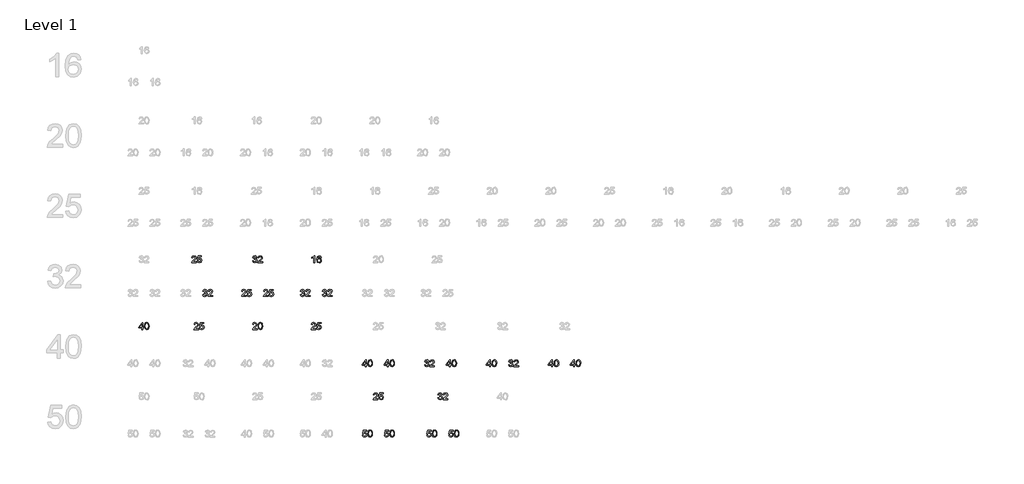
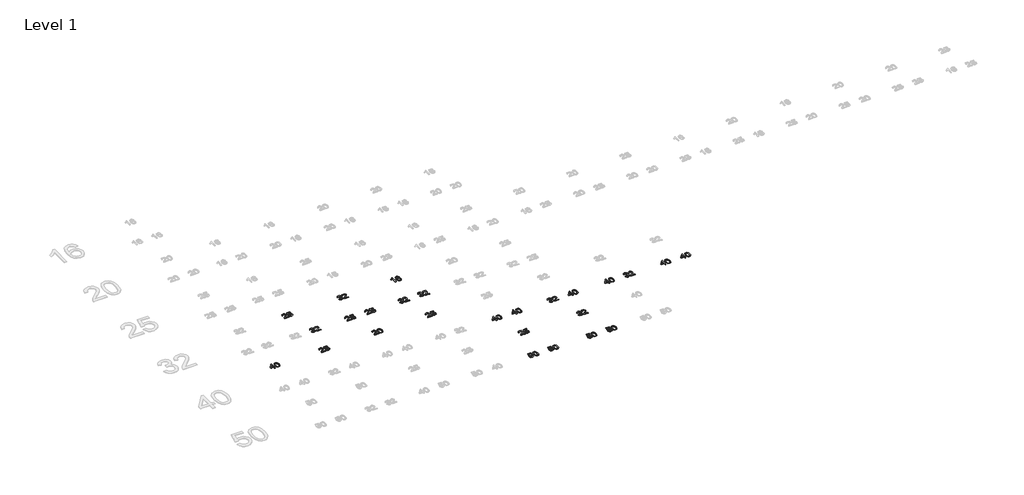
# One storey, part 29 of 58: 26 proxies.
"""IFC4 building model written with IfcOpenShell, lengths in millimetres."""

from ifc_helpers import new_model, si_unit, frame, origin, place, context, project, spatial, polyline, outline, extrude, element, save

model = new_model("IFC4")

# Units and contexts
model_context = context("Model", 3, world=origin())
ifc_project = project(units=[si_unit("LENGTHUNIT", "METRE", prefix="MILLI")], contexts=[model_context])

# Site, building, storey
site = spatial("IfcSite", under=ifc_project)
building = spatial("IfcBuilding", under=site)
storey = spatial("IfcBuildingStorey", under=building, Name="Level 1", Elevation=27.3876384)

# Proxies
placement = place(None, origin())
element("IfcBuildingElementProxy", 1, Name="30mm Arial", ObjectType="30mm Arial", at=placement, inside=storey, context=model_context, shape_type="SweptSolid", body=[
    extrude(outline(polyline([(13366.1902929, 29211.0993177), (13369.9574045, 29211.5702066), (13372.0359378, 29207.6044387), (13375.9244505, 29206.3904281), (13380.5009025, 29208.0606124), (13382.2005173, 29212.195606), (13380.5156178, 29216.0914763), (13376.2334713, 29217.6329019), (13373.5920786, 29217.2208741), (13374.0114641, 29220.9879857), (13378.8895793, 29222.0254129), (13380.7878504, 29225.3510661), (13379.4119718, 29228.2978009), (13375.8655893, 29229.4639869), (13372.2750611, 29228.2867645), (13370.4282934, 29224.7550973), (13366.6611818, 29225.2259863), (13369.7440329, 29231.1341711), (13375.7331518, 29233.2310985), (13380.2764945, 29232.1973501), (13383.4549949, 29229.3720164), (13384.5549621, 29225.5717953), (13383.5101772, 29222.0989893), (13380.4199684, 29219.6047494), (13384.5255315, 29217.0295754), (13385.9676289, 29212.1293872), (13383.0834341, 29205.3897891), (13375.7920129, 29202.6233165), (13369.1848523, 29204.9851189), (13366.1902929, 29211.0993177)])), frame((0.0, 0.0, 27.3876384), z_axis=(0.0, 0.0, 1.0), x_axis=(1.0, 0.0, 0.0)), (0.0, 0.0, 1.0), 2.0),
    extrude(outline(polyline([(13408.5702987, 29206.8613171), (13408.5702987, 29203.0942054), (13388.7929626, 29203.0942054), (13389.1976328, 29205.6914523), (13391.4858589, 29209.6903296), (13396.202106, 29214.0570889), (13402.7062597, 29220.3331557), (13404.3322981, 29224.6005869), (13402.7982302, 29228.0549988), (13398.7919953, 29229.4639869), (13394.6165346, 29228.0881082), (13393.0309632, 29224.2842084), (13389.2638516, 29224.7550973), (13392.1517253, 29231.0605947), (13398.8729293, 29233.2310985), (13405.6162063, 29230.8177926), (13408.0994098, 29224.8286737), (13407.4298645, 29221.2565395), (13405.2041785, 29217.5630043), (13399.8073496, 29212.4016199), (13395.4736997, 29208.7779823), (13393.7740849, 29206.8613171), (13408.5702987, 29206.8613171)])), frame((0.0, 0.0, 27.3876384), z_axis=(0.0, 0.0, 1.0), x_axis=(1.0, 0.0, 0.0)), (0.0, 0.0, 1.0), 2.0),
])
element("IfcBuildingElementProxy", 2, Name="30mm Arial", ObjectType="30mm Arial", at=placement, inside=storey, context=model_context, shape_type="SweptSolid", body=[
    extrude(outline(polyline([(13338.6749248, 29350.6799576), (13338.6749248, 29346.912846), (13318.8975887, 29346.912846), (13319.3022589, 29349.5100929), (13321.5904849, 29353.5089702), (13326.3067321, 29357.8757295), (13332.8108858, 29364.1517963), (13334.4369242, 29368.4192274), (13332.9028563, 29371.8736394), (13328.8966213, 29373.2826274), (13324.7211607, 29371.9067488), (13323.1355893, 29368.1028489), (13319.3684777, 29368.5737379), (13322.2563513, 29374.8792353), (13328.9775554, 29377.049739), (13335.7208324, 29374.6364332), (13338.2040358, 29368.6473143), (13337.5344906, 29365.0751801), (13335.3088045, 29361.3816449), (13329.9119756, 29356.2202605), (13325.5783257, 29352.5966228), (13323.8787109, 29350.6799576), (13338.6749248, 29350.6799576)])), frame((0.0, 0.0, 27.3876384), z_axis=(0.0, 0.0, 1.0), x_axis=(1.0, 0.0, 0.0)), (0.0, 0.0, 1.0), 2.0),
    extrude(outline(polyline([(13342.4420364, 29354.9179582), (13346.209148, 29355.3888472), (13348.1074191, 29351.5076921), (13352.0437565, 29350.2090687), (13356.7673613, 29352.0153693), (13358.4522608, 29356.8088717), (13356.8740471, 29361.2823167), (13352.1026176, 29362.9230704), (13348.7953585, 29362.2682405), (13346.680037, 29360.5686257), (13342.9129254, 29361.0395146), (13346.209148, 29376.5788501), (13360.8067056, 29376.5788501), (13360.8067056, 29372.8117385), (13349.255211, 29372.8117385), (13347.6438878, 29364.5123207), (13353.1547601, 29366.6901821), (13359.5963738, 29363.9899282), (13362.2193725, 29357.0443161), (13359.8575701, 29350.0545582), (13352.0290412, 29346.441957), (13345.3814135, 29348.7632924), (13342.4420364, 29354.9179582)])), frame((0.0, 0.0, 27.3876384), z_axis=(0.0, 0.0, 1.0), x_axis=(1.0, 0.0, 0.0)), (0.0, 0.0, 1.0), 2.0),
])
element("IfcBuildingElementProxy", 3, Name="30mm Arial", ObjectType="30mm Arial", at=placement, inside=storey, context=model_context, shape_type="SweptSolid", body=[
    extrude(outline(polyline([(13551.4666407, 29206.8613171), (13551.4666407, 29203.0942054), (13531.6893046, 29203.0942054), (13532.0939748, 29205.6914523), (13534.3822008, 29209.6903296), (13539.098448, 29214.0570889), (13545.6026017, 29220.3331557), (13547.2286401, 29224.6005869), (13545.6945722, 29228.0549988), (13541.6883372, 29229.4639869), (13537.5128766, 29228.0881082), (13535.9273052, 29224.2842084), (13532.1601936, 29224.7550973), (13535.0480672, 29231.0605947), (13541.7692713, 29233.2310985), (13548.5125482, 29230.8177926), (13550.9957517, 29224.8286737), (13550.3262065, 29221.2565395), (13548.1005204, 29217.5630043), (13542.7036915, 29212.4016199), (13538.3700416, 29208.7779823), (13536.6704268, 29206.8613171), (13551.4666407, 29206.8613171)])), frame((0.0, 0.0, 27.3876384), z_axis=(0.0, 0.0, 1.0), x_axis=(1.0, 0.0, 0.0)), (0.0, 0.0, 1.0), 2.0),
    extrude(outline(polyline([(13555.2337523, 29211.0993177), (13559.0008639, 29211.5702066), (13560.899135, 29207.6890516), (13564.8354724, 29206.3904281), (13569.5590772, 29208.1967287), (13571.2439767, 29212.9902311), (13569.665763, 29217.4636762), (13564.8943335, 29219.1044299), (13561.5870743, 29218.4495999), (13559.4717529, 29216.7499851), (13555.7046412, 29217.2208741), (13559.0008639, 29232.7602095), (13573.5984215, 29232.7602095), (13573.5984215, 29228.9930979), (13562.0469268, 29228.9930979), (13560.4356037, 29220.6936801), (13565.946476, 29222.8715415), (13572.3880897, 29220.1712877), (13575.0110884, 29213.2256756), (13572.6492859, 29206.2359177), (13564.8207571, 29202.6233165), (13558.1731294, 29204.9446519), (13555.2337523, 29211.0993177)])), frame((0.0, 0.0, 27.3876384), z_axis=(0.0, 0.0, 1.0), x_axis=(1.0, 0.0, 0.0)), (0.0, 0.0, 1.0), 2.0),
])
element("IfcBuildingElementProxy", 4, Name="30mm Arial", ObjectType="30mm Arial", at=placement, inside=storey, context=model_context, shape_type="SweptSolid", body=[
    extrude(outline(polyline([(13645.2166407, 29206.8613171), (13645.2166407, 29203.0942054), (13625.4393046, 29203.0942054), (13625.8439748, 29205.6914523), (13628.1322008, 29209.6903296), (13632.848448, 29214.0570889), (13639.3526017, 29220.3331557), (13640.9786401, 29224.6005869), (13639.4445722, 29228.0549988), (13635.4383372, 29229.4639869), (13631.2628766, 29228.0881082), (13629.6773052, 29224.2842084), (13625.9101936, 29224.7550973), (13628.7980672, 29231.0605947), (13635.5192713, 29233.2310985), (13642.2625482, 29230.8177926), (13644.7457517, 29224.8286737), (13644.0762065, 29221.2565395), (13641.8505204, 29217.5630043), (13636.4536915, 29212.4016199), (13632.1200416, 29208.7779823), (13630.4204268, 29206.8613171), (13645.2166407, 29206.8613171)])), frame((0.0, 0.0, 27.3876384), z_axis=(0.0, 0.0, 1.0), x_axis=(1.0, 0.0, 0.0)), (0.0, 0.0, 1.0), 2.0),
    extrude(outline(polyline([(13648.9837523, 29211.0993177), (13652.7508639, 29211.5702066), (13654.649135, 29207.6890516), (13658.5854724, 29206.3904281), (13663.3090772, 29208.1967287), (13664.9939767, 29212.9902311), (13663.415763, 29217.4636762), (13658.6443335, 29219.1044299), (13655.3370743, 29218.4495999), (13653.2217529, 29216.7499851), (13649.4546412, 29217.2208741), (13652.7508639, 29232.7602095), (13667.3484215, 29232.7602095), (13667.3484215, 29228.9930979), (13655.7969268, 29228.9930979), (13654.1856037, 29220.6936801), (13659.696476, 29222.8715415), (13666.1380897, 29220.1712877), (13668.7610884, 29213.2256756), (13666.3992859, 29206.2359177), (13658.5707571, 29202.6233165), (13651.9231294, 29204.9446519), (13648.9837523, 29211.0993177)])), frame((0.0, 0.0, 27.3876384), z_axis=(0.0, 0.0, 1.0), x_axis=(1.0, 0.0, 0.0)), (0.0, 0.0, 1.0), 2.0),
])
element("IfcBuildingElementProxy", 5, Name="30mm Arial", ObjectType="30mm Arial", at=placement, inside=storey, context=model_context, shape_type="SweptSolid", body=[
    extrude(outline(polyline([(13579.0883784, 29354.9179582), (13582.85549, 29355.3888472), (13584.9340233, 29351.4230793), (13588.8225359, 29350.2090687), (13593.398988, 29351.8792529), (13595.0986028, 29356.0142466), (13593.4137032, 29359.9101169), (13589.1315568, 29361.4515425), (13586.4901641, 29361.0395146), (13586.9095496, 29364.8066262), (13591.7876648, 29365.8440535), (13593.6859359, 29369.1697067), (13592.3100573, 29372.1164415), (13588.7636748, 29373.2826274), (13585.1731466, 29372.105405), (13583.3263789, 29368.5737379), (13579.5592673, 29369.0446268), (13582.6421184, 29374.9528117), (13588.6312373, 29377.049739), (13593.17458, 29376.0159906), (13596.3530804, 29373.1906569), (13597.4530476, 29369.3904359), (13596.4082627, 29365.9176299), (13593.3180539, 29363.4233899), (13597.423617, 29360.848216), (13598.8657144, 29355.9480278), (13595.9815196, 29349.2084297), (13588.6900984, 29346.441957), (13582.0829378, 29348.8037595), (13579.0883784, 29354.9179582)])), frame((0.0, 0.0, 27.3876384), z_axis=(0.0, 0.0, 1.0), x_axis=(1.0, 0.0, 0.0)), (0.0, 0.0, 1.0), 2.0),
    extrude(outline(polyline([(13621.4683842, 29350.6799576), (13621.4683842, 29346.912846), (13601.6910481, 29346.912846), (13602.0957183, 29349.5100929), (13604.3839443, 29353.5089702), (13609.1001915, 29357.8757295), (13615.6043452, 29364.1517963), (13617.2303836, 29368.4192274), (13615.6963157, 29371.8736394), (13611.6900808, 29373.2826274), (13607.5146201, 29371.9067488), (13605.9290487, 29368.1028489), (13602.1619371, 29368.5737379), (13605.0498108, 29374.8792353), (13611.7710148, 29377.049739), (13618.5142918, 29374.6364332), (13620.9974952, 29368.6473143), (13620.32795, 29365.0751801), (13618.1022639, 29361.3816449), (13612.7054351, 29356.2202605), (13608.3717852, 29352.5966228), (13606.6721704, 29350.6799576), (13621.4683842, 29350.6799576)])), frame((0.0, 0.0, 27.3876384), z_axis=(0.0, 0.0, 1.0), x_axis=(1.0, 0.0, 0.0)), (0.0, 0.0, 1.0), 2.0),
])
element("IfcBuildingElementProxy", 6, Name="30mm Arial", ObjectType="30mm Arial", at=placement, inside=storey, context=model_context, shape_type="SweptSolid", body=[
    extrude(outline(polyline([(13782.7203922, 29211.0993177), (13786.4875038, 29211.5702066), (13788.5660371, 29207.6044387), (13792.4545498, 29206.3904281), (13797.0310018, 29208.0606124), (13798.7306166, 29212.195606), (13797.0457171, 29216.0914763), (13792.7635706, 29217.6329019), (13790.1221779, 29217.2208741), (13790.5415634, 29220.9879857), (13795.4196786, 29222.0254129), (13797.3179497, 29225.3510661), (13795.9420711, 29228.2978009), (13792.3956886, 29229.4639869), (13788.8051604, 29228.2867645), (13786.9583928, 29224.7550973), (13783.1912811, 29225.2259863), (13786.2741322, 29231.1341711), (13792.2632511, 29233.2310985), (13796.8065938, 29232.1973501), (13799.9850942, 29229.3720164), (13801.0850614, 29225.5717953), (13800.0402765, 29222.0989893), (13796.9500677, 29219.6047494), (13801.0556308, 29217.0295754), (13802.4977282, 29212.1293872), (13799.6135334, 29205.3897891), (13792.3221122, 29202.6233165), (13785.7149516, 29204.9851189), (13782.7203922, 29211.0993177)])), frame((0.0, 0.0, 27.3876384), z_axis=(0.0, 0.0, 1.0), x_axis=(1.0, 0.0, 0.0)), (0.0, 0.0, 1.0), 2.0),
    extrude(outline(polyline([(13825.100398, 29206.8613171), (13825.100398, 29203.0942054), (13805.323062, 29203.0942054), (13805.7277322, 29205.6914523), (13808.0159582, 29209.6903296), (13812.7322053, 29214.0570889), (13819.236359, 29220.3331557), (13820.8623974, 29224.6005869), (13819.3283295, 29228.0549988), (13815.3220946, 29229.4639869), (13811.1466339, 29228.0881082), (13809.5610625, 29224.2842084), (13805.7939509, 29224.7550973), (13808.6818246, 29231.0605947), (13815.4030286, 29233.2310985), (13822.1463056, 29230.8177926), (13824.6295091, 29224.8286737), (13823.9599638, 29221.2565395), (13821.7342778, 29217.5630043), (13816.3374489, 29212.4016199), (13812.003799, 29208.7779823), (13810.3041842, 29206.8613171), (13825.100398, 29206.8613171)])), frame((0.0, 0.0, 27.3876384), z_axis=(0.0, 0.0, 1.0), x_axis=(1.0, 0.0, 0.0)), (0.0, 0.0, 1.0), 2.0),
])
element("IfcBuildingElementProxy", 7, Name="30mm Arial", ObjectType="30mm Arial", at=placement, inside=storey, context=model_context, shape_type="SweptSolid", body=[
    extrude(outline(polyline([(13876.4703922, 29211.0993177), (13880.2375038, 29211.5702066), (13882.3160371, 29207.6044387), (13886.2045498, 29206.3904281), (13890.7810018, 29208.0606124), (13892.4806166, 29212.195606), (13890.7957171, 29216.0914763), (13886.5135706, 29217.6329019), (13883.8721779, 29217.2208741), (13884.2915634, 29220.9879857), (13889.1696786, 29222.0254129), (13891.0679497, 29225.3510661), (13889.6920711, 29228.2978009), (13886.1456886, 29229.4639869), (13882.5551604, 29228.2867645), (13880.7083928, 29224.7550973), (13876.9412811, 29225.2259863), (13880.0241322, 29231.1341711), (13886.0132511, 29233.2310985), (13890.5565938, 29232.1973501), (13893.7350942, 29229.3720164), (13894.8350614, 29225.5717953), (13893.7902765, 29222.0989893), (13890.7000677, 29219.6047494), (13894.8056308, 29217.0295754), (13896.2477282, 29212.1293872), (13893.3635334, 29205.3897891), (13886.0721122, 29202.6233165), (13879.4649516, 29204.9851189), (13876.4703922, 29211.0993177)])), frame((0.0, 0.0, 27.3876384), z_axis=(0.0, 0.0, 1.0), x_axis=(1.0, 0.0, 0.0)), (0.0, 0.0, 1.0), 2.0),
    extrude(outline(polyline([(13918.850398, 29206.8613171), (13918.850398, 29203.0942054), (13899.073062, 29203.0942054), (13899.4777322, 29205.6914523), (13901.7659582, 29209.6903296), (13906.4822053, 29214.0570889), (13912.986359, 29220.3331557), (13914.6123974, 29224.6005869), (13913.0783295, 29228.0549988), (13909.0720946, 29229.4639869), (13904.8966339, 29228.0881082), (13903.3110625, 29224.2842084), (13899.5439509, 29224.7550973), (13902.4318246, 29231.0605947), (13909.1530286, 29233.2310985), (13915.8963056, 29230.8177926), (13918.3795091, 29224.8286737), (13917.7099638, 29221.2565395), (13915.4842778, 29217.5630043), (13910.0874489, 29212.4016199), (13905.753799, 29208.7779823), (13904.0541842, 29206.8613171), (13918.850398, 29206.8613171)])), frame((0.0, 0.0, 27.3876384), z_axis=(0.0, 0.0, 1.0), x_axis=(1.0, 0.0, 0.0)), (0.0, 0.0, 1.0), 2.0),
])
element("IfcBuildingElementProxy", 8, Name="30mm Arial", ObjectType="30mm Arial", at=placement, inside=storey, context=model_context, shape_type="SweptSolid", body=[
    extrude(outline(polyline([(13843.7752456, 29346.912846), (13840.008134, 29346.912846), (13840.008134, 29370.3984326), (13836.4396786, 29367.856368), (13832.4739107, 29365.9544181), (13832.4739107, 29369.5155158), (13837.9958194, 29373.0398253), (13841.3472244, 29377.049739), (13843.7752456, 29377.049739), (13843.7752456, 29346.912846)])), frame((0.0, 0.0, 27.3876384), z_axis=(0.0, 0.0, 1.0), x_axis=(1.0, 0.0, 0.0)), (0.0, 0.0, 1.0), 2.0),
    extrude(outline(polyline([(13872.0285828, 29369.0446268), (13868.2614712, 29368.5737379), (13866.8340891, 29371.7154501), (13863.0596198, 29373.2826274), (13859.6603901, 29372.3702801), (13857.088895, 29368.9452987), (13856.0183584, 29362.2314523), (13859.3403328, 29365.2370482), (13863.4569323, 29366.2192931), (13869.8580791, 29363.5337545), (13872.4994718, 29356.5955001), (13871.2560306, 29351.3973275), (13867.8347281, 29347.7185076), (13862.8977517, 29346.441957), (13855.2200545, 29349.8264714), (13852.2512468, 29360.9806535), (13855.5474694, 29373.6137212), (13863.2950643, 29377.049739), (13869.2473949, 29374.9233811), (13872.0285828, 29369.0446268)]), holes=[polyline([(13856.0183584, 29356.6543612), (13856.8902387, 29353.3912479), (13859.2078953, 29351.0220879), (13862.6034461, 29350.2090687), (13867.0437818, 29351.8939682), (13868.7323601, 29356.4704202), (13867.0658547, 29360.8518948), (13862.4489357, 29362.4521815), (13857.8908777, 29360.8518948), (13856.0183584, 29356.6543612)])]), frame((0.0, 0.0, 27.3876384), z_axis=(0.0, 0.0, 1.0), x_axis=(1.0, 0.0, 0.0)), (0.0, 0.0, 1.0), 2.0),
])
element("IfcBuildingElementProxy", 9, Name="30mm Arial", ObjectType="30mm Arial", at=placement, inside=storey, context=model_context, shape_type="SweptSolid", body=[
    extrude(outline(polyline([(13106.6115905, 29061.912846), (13106.6115905, 29068.9761803), (13092.9558108, 29068.9761803), (13092.9558108, 29072.7432919), (13107.5533684, 29091.5788501), (13110.3787021, 29091.5788501), (13110.3787021, 29072.7432919), (13114.1458137, 29072.7432919), (13114.1458137, 29068.9761803), (13110.3787021, 29068.9761803), (13110.3787021, 29061.912846), (13106.6115905, 29061.912846)]), holes=[polyline([(13106.6115905, 29072.7432919), (13106.6115905, 29084.3830783), (13097.5911239, 29072.7432919), (13106.6115905, 29072.7432919)])]), frame((0.0, 0.0, 27.3876384), z_axis=(0.0, 0.0, 1.0), x_axis=(1.0, 0.0, 0.0)), (0.0, 0.0, 1.0), 2.0),
    extrude(outline(polyline([(13117.4420364, 29076.7384904), (13118.5493612, 29085.409469), (13121.8382262, 29090.4089853), (13127.3307044, 29092.049739), (13131.7305731, 29091.0785306), (13134.7692784, 29088.2789486), (13136.535112, 29083.8202188), (13137.2193725, 29076.7384904), (13136.1230841, 29068.1043), (13132.8452555, 29063.0937472), (13127.3307044, 29061.441957), (13120.4439535, 29064.3114366), (13117.4420364, 29076.7384904)]), holes=[polyline([(13121.209148, 29076.745848), (13122.9749816, 29067.3906089), (13127.3307044, 29065.2090687), (13131.6864273, 29067.3979666), (13133.4522608, 29076.745848), (13131.7452884, 29085.9944014), (13127.2865586, 29088.2826274), (13123.0338427, 29086.2666341), (13121.209148, 29076.745848)])]), frame((0.0, 0.0, 27.3876384), z_axis=(0.0, 0.0, 1.0), x_axis=(1.0, 0.0, 0.0)), (0.0, 0.0, 1.0), 2.0),
])
element("IfcBuildingElementProxy", 10, Name="30mm Arial", ObjectType="30mm Arial", at=placement, inside=storey, context=model_context, shape_type="SweptSolid", body=[
    extrude(outline(polyline([(13348.6749248, 29065.6799576), (13348.6749248, 29061.912846), (13328.8975887, 29061.912846), (13329.3022589, 29064.5100929), (13331.5904849, 29068.5089702), (13336.3067321, 29072.8757295), (13342.8108858, 29079.1517963), (13344.4369242, 29083.4192274), (13342.9028563, 29086.8736394), (13338.8966213, 29088.2826274), (13334.7211607, 29086.9067488), (13333.1355893, 29083.1028489), (13329.3684777, 29083.5737379), (13332.2563513, 29089.8792353), (13338.9775554, 29092.049739), (13345.7208324, 29089.6364332), (13348.2040358, 29083.6473143), (13347.5344906, 29080.0751801), (13345.3088045, 29076.3816449), (13339.9119756, 29071.2202605), (13335.5783257, 29067.5966228), (13333.8787109, 29065.6799576), (13348.6749248, 29065.6799576)])), frame((0.0, 0.0, 27.3876384), z_axis=(0.0, 0.0, 1.0), x_axis=(1.0, 0.0, 0.0)), (0.0, 0.0, 1.0), 2.0),
    extrude(outline(polyline([(13352.4420364, 29069.9179582), (13356.209148, 29070.3888472), (13358.1074191, 29066.5076921), (13362.0437565, 29065.2090687), (13366.7673613, 29067.0153693), (13368.4522608, 29071.8088717), (13366.8740471, 29076.2823167), (13362.1026176, 29077.9230704), (13358.7953585, 29077.2682405), (13356.680037, 29075.5686257), (13352.9129254, 29076.0395146), (13356.209148, 29091.5788501), (13370.8067056, 29091.5788501), (13370.8067056, 29087.8117385), (13359.255211, 29087.8117385), (13357.6438878, 29079.5123207), (13363.1547601, 29081.6901821), (13369.5963738, 29078.9899282), (13372.2193725, 29072.0443161), (13369.8575701, 29065.0545582), (13362.0290412, 29061.441957), (13355.3814135, 29063.7632924), (13352.4420364, 29069.9179582)])), frame((0.0, 0.0, 27.3876384), z_axis=(0.0, 0.0, 1.0), x_axis=(1.0, 0.0, 0.0)), (0.0, 0.0, 1.0), 2.0),
])
element("IfcBuildingElementProxy", 11, Name="30mm Arial", ObjectType="30mm Arial", at=placement, inside=storey, context=model_context, shape_type="SweptSolid", body=[
    extrude(outline(polyline([(13598.3948255, 29065.6799576), (13598.3948255, 29061.912846), (13578.6174894, 29061.912846), (13579.0221596, 29064.5100929), (13581.3103856, 29068.5089702), (13586.0266328, 29072.8757295), (13592.5307865, 29079.1517963), (13594.1568249, 29083.4192274), (13592.622757, 29086.8736394), (13588.616522, 29088.2826274), (13584.4410614, 29086.9067488), (13582.85549, 29083.1028489), (13579.0883784, 29083.5737379), (13581.976252, 29089.8792353), (13588.6974561, 29092.049739), (13595.440733, 29089.6364332), (13597.9239365, 29083.6473143), (13597.2543913, 29080.0751801), (13595.0287052, 29076.3816449), (13589.6318763, 29071.2202605), (13585.2982264, 29067.5966228), (13583.5986116, 29065.6799576), (13598.3948255, 29065.6799576)])), frame((0.0, 0.0, 27.3876384), z_axis=(0.0, 0.0, 1.0), x_axis=(1.0, 0.0, 0.0)), (0.0, 0.0, 1.0), 2.0),
    extrude(outline(polyline([(13602.1619371, 29076.7384904), (13603.2692619, 29085.409469), (13606.5581269, 29090.4089853), (13612.0506051, 29092.049739), (13616.4504738, 29091.0785306), (13619.4891791, 29088.2789486), (13621.2550126, 29083.8202188), (13621.9392732, 29076.7384904), (13620.8429848, 29068.1043), (13617.5651562, 29063.0937472), (13612.0506051, 29061.441957), (13605.1638542, 29064.3114366), (13602.1619371, 29076.7384904)]), holes=[polyline([(13605.9290487, 29076.745848), (13607.6948823, 29067.3906089), (13612.0506051, 29065.2090687), (13616.4063279, 29067.3979666), (13618.1721615, 29076.745848), (13616.4651891, 29085.9944014), (13612.0064593, 29088.2826274), (13607.7537434, 29086.2666341), (13605.9290487, 29076.745848)])]), frame((0.0, 0.0, 27.3876384), z_axis=(0.0, 0.0, 1.0), x_axis=(1.0, 0.0, 0.0)), (0.0, 0.0, 1.0), 2.0),
])
element("IfcBuildingElementProxy", 12, Name="30mm Arial", ObjectType="30mm Arial", at=placement, inside=storey, context=model_context, shape_type="SweptSolid", body=[
    extrude(outline(polyline([(13848.9550241, 29065.6799576), (13848.9550241, 29061.912846), (13829.177688, 29061.912846), (13829.5823582, 29064.5100929), (13831.8705842, 29068.5089702), (13836.5868314, 29072.8757295), (13843.0909851, 29079.1517963), (13844.7170235, 29083.4192274), (13843.1829556, 29086.8736394), (13839.1767207, 29088.2826274), (13835.00126, 29086.9067488), (13833.4156886, 29083.1028489), (13829.648577, 29083.5737379), (13832.5364506, 29089.8792353), (13839.2576547, 29092.049739), (13846.0009317, 29089.6364332), (13848.4841351, 29083.6473143), (13847.8145899, 29080.0751801), (13845.5889038, 29076.3816449), (13840.192075, 29071.2202605), (13835.8584251, 29067.5966228), (13834.1588102, 29065.6799576), (13848.9550241, 29065.6799576)])), frame((0.0, 0.0, 27.3876384), z_axis=(0.0, 0.0, 1.0), x_axis=(1.0, 0.0, 0.0)), (0.0, 0.0, 1.0), 2.0),
    extrude(outline(polyline([(13852.7221357, 29069.9179582), (13856.4892473, 29070.3888472), (13858.3875184, 29066.5076921), (13862.3238558, 29065.2090687), (13867.0474606, 29067.0153693), (13868.7323601, 29071.8088717), (13867.1541464, 29076.2823167), (13862.3827169, 29077.9230704), (13859.0754578, 29077.2682405), (13856.9601363, 29075.5686257), (13853.1930247, 29076.0395146), (13856.4892473, 29091.5788501), (13871.0868049, 29091.5788501), (13871.0868049, 29087.8117385), (13859.5353103, 29087.8117385), (13857.9239871, 29079.5123207), (13863.4348594, 29081.6901821), (13869.8764732, 29078.9899282), (13872.4994718, 29072.0443161), (13870.1376694, 29065.0545582), (13862.3091405, 29061.441957), (13855.6615129, 29063.7632924), (13852.7221357, 29069.9179582)])), frame((0.0, 0.0, 27.3876384), z_axis=(0.0, 0.0, 1.0), x_axis=(1.0, 0.0, 0.0)), (0.0, 0.0, 1.0), 2.0),
])
element("IfcBuildingElementProxy", 13, Name="30mm Arial", ObjectType="30mm Arial", at=placement, inside=storey, context=model_context, shape_type="SweptSolid", body=[
    extrude(outline(polyline([(14059.963505, 28903.0942054), (14059.963505, 28910.1575397), (14046.3077253, 28910.1575397), (14046.3077253, 28913.9246514), (14060.9052829, 28932.7602095), (14063.7306166, 28932.7602095), (14063.7306166, 28913.9246514), (14067.4977282, 28913.9246514), (14067.4977282, 28910.1575397), (14063.7306166, 28910.1575397), (14063.7306166, 28903.0942054), (14059.963505, 28903.0942054)]), holes=[polyline([(14059.963505, 28913.9246514), (14059.963505, 28925.5644377), (14050.9430385, 28913.9246514), (14059.963505, 28913.9246514)])]), frame((0.0, 0.0, 27.3876384), z_axis=(0.0, 0.0, 1.0), x_axis=(1.0, 0.0, 0.0)), (0.0, 0.0, 1.0), 2.0),
    extrude(outline(polyline([(14070.7939509, 28917.9198498), (14071.9012757, 28926.5908285), (14075.1901408, 28931.5903448), (14080.6826189, 28933.2310985), (14085.0824876, 28932.25989), (14088.1211929, 28929.460308), (14089.8870265, 28925.0015783), (14090.571287, 28917.9198498), (14089.4749986, 28909.2856594), (14086.19717, 28904.2751066), (14080.6826189, 28902.6233165), (14073.795868, 28905.492796), (14070.7939509, 28917.9198498)]), holes=[polyline([(14074.5610625, 28917.9272075), (14076.3268961, 28908.5719683), (14080.6826189, 28906.3904281), (14085.0383418, 28908.579326), (14086.8041753, 28917.9272075), (14085.0972029, 28927.1757608), (14080.6384731, 28929.4639869), (14076.3857572, 28927.4479935), (14074.5610625, 28917.9272075)])]), frame((0.0, 0.0, 27.3876384), z_axis=(0.0, 0.0, 1.0), x_axis=(1.0, 0.0, 0.0)), (0.0, 0.0, 1.0), 2.0),
])
element("IfcBuildingElementProxy", 14, Name="30mm Arial", ObjectType="30mm Arial", at=placement, inside=storey, context=model_context, shape_type="SweptSolid", body=[
    extrude(outline(polyline([(14153.713505, 28903.0942054), (14153.713505, 28910.1575397), (14140.0577253, 28910.1575397), (14140.0577253, 28913.9246514), (14154.6552829, 28932.7602095), (14157.4806166, 28932.7602095), (14157.4806166, 28913.9246514), (14161.2477282, 28913.9246514), (14161.2477282, 28910.1575397), (14157.4806166, 28910.1575397), (14157.4806166, 28903.0942054), (14153.713505, 28903.0942054)]), holes=[polyline([(14153.713505, 28913.9246514), (14153.713505, 28925.5644377), (14144.6930385, 28913.9246514), (14153.713505, 28913.9246514)])]), frame((0.0, 0.0, 27.3876384), z_axis=(0.0, 0.0, 1.0), x_axis=(1.0, 0.0, 0.0)), (0.0, 0.0, 1.0), 2.0),
    extrude(outline(polyline([(14164.5439509, 28917.9198498), (14165.6512757, 28926.5908285), (14168.9401408, 28931.5903448), (14174.4326189, 28933.2310985), (14178.8324876, 28932.25989), (14181.8711929, 28929.460308), (14183.6370265, 28925.0015783), (14184.321287, 28917.9198498), (14183.2249986, 28909.2856594), (14179.94717, 28904.2751066), (14174.4326189, 28902.6233165), (14167.545868, 28905.492796), (14164.5439509, 28917.9198498)]), holes=[polyline([(14168.3110625, 28917.9272075), (14170.0768961, 28908.5719683), (14174.4326189, 28906.3904281), (14178.7883418, 28908.579326), (14180.5541753, 28917.9272075), (14178.8472029, 28927.1757608), (14174.3884731, 28929.4639869), (14170.1357572, 28927.4479935), (14168.3110625, 28917.9272075)])]), frame((0.0, 0.0, 27.3876384), z_axis=(0.0, 0.0, 1.0), x_axis=(1.0, 0.0, 0.0)), (0.0, 0.0, 1.0), 2.0),
])
element("IfcBuildingElementProxy", 15, Name="30mm Arial", ObjectType="30mm Arial", at=placement, inside=storey, context=model_context, shape_type="SweptSolid", body=[
    extrude(outline(polyline([(14312.7203922, 28911.0993177), (14316.4875038, 28911.5702066), (14318.5660371, 28907.6044387), (14322.4545498, 28906.3904281), (14327.0310018, 28908.0606124), (14328.7306166, 28912.195606), (14327.0457171, 28916.0914763), (14322.7635706, 28917.6329019), (14320.1221779, 28917.2208741), (14320.5415634, 28920.9879857), (14325.4196786, 28922.0254129), (14327.3179497, 28925.3510661), (14325.9420711, 28928.2978009), (14322.3956886, 28929.4639869), (14318.8051604, 28928.2867645), (14316.9583928, 28924.7550973), (14313.1912811, 28925.2259863), (14316.2741322, 28931.1341711), (14322.2632511, 28933.2310985), (14326.8065938, 28932.1973501), (14329.9850942, 28929.3720164), (14331.0850614, 28925.5717953), (14330.0402765, 28922.0989893), (14326.9500677, 28919.6047494), (14331.0556308, 28917.0295754), (14332.4977282, 28912.1293872), (14329.6135334, 28905.3897891), (14322.3221122, 28902.6233165), (14315.7149516, 28904.9851189), (14312.7203922, 28911.0993177)])), frame((0.0, 0.0, 27.3876384), z_axis=(0.0, 0.0, 1.0), x_axis=(1.0, 0.0, 0.0)), (0.0, 0.0, 1.0), 2.0),
    extrude(outline(polyline([(14355.100398, 28906.8613171), (14355.100398, 28903.0942054), (14335.323062, 28903.0942054), (14335.7277322, 28905.6914523), (14338.0159582, 28909.6903296), (14342.7322053, 28914.0570889), (14349.236359, 28920.3331557), (14350.8623974, 28924.6005869), (14349.3283295, 28928.0549988), (14345.3220946, 28929.4639869), (14341.1466339, 28928.0881082), (14339.5610625, 28924.2842084), (14335.7939509, 28924.7550973), (14338.6818246, 28931.0605947), (14345.4030286, 28933.2310985), (14352.1463056, 28930.8177926), (14354.6295091, 28924.8286737), (14353.9599638, 28921.2565395), (14351.7342778, 28917.5630043), (14346.3374489, 28912.4016199), (14342.003799, 28908.7779823), (14340.3041842, 28906.8613171), (14355.100398, 28906.8613171)])), frame((0.0, 0.0, 27.3876384), z_axis=(0.0, 0.0, 1.0), x_axis=(1.0, 0.0, 0.0)), (0.0, 0.0, 1.0), 2.0),
])
element("IfcBuildingElementProxy", 16, Name="30mm Arial", ObjectType="30mm Arial", at=placement, inside=storey, context=model_context, shape_type="SweptSolid", body=[
    extrude(outline(polyline([(14418.713505, 28903.0942054), (14418.713505, 28910.1575397), (14405.0577253, 28910.1575397), (14405.0577253, 28913.9246514), (14419.6552829, 28932.7602095), (14422.4806166, 28932.7602095), (14422.4806166, 28913.9246514), (14426.2477282, 28913.9246514), (14426.2477282, 28910.1575397), (14422.4806166, 28910.1575397), (14422.4806166, 28903.0942054), (14418.713505, 28903.0942054)]), holes=[polyline([(14418.713505, 28913.9246514), (14418.713505, 28925.5644377), (14409.6930385, 28913.9246514), (14418.713505, 28913.9246514)])]), frame((0.0, 0.0, 27.3876384), z_axis=(0.0, 0.0, 1.0), x_axis=(1.0, 0.0, 0.0)), (0.0, 0.0, 1.0), 2.0),
    extrude(outline(polyline([(14429.5439509, 28917.9198498), (14430.6512757, 28926.5908285), (14433.9401408, 28931.5903448), (14439.4326189, 28933.2310985), (14443.8324876, 28932.25989), (14446.8711929, 28929.460308), (14448.6370265, 28925.0015783), (14449.321287, 28917.9198498), (14448.2249986, 28909.2856594), (14444.94717, 28904.2751066), (14439.4326189, 28902.6233165), (14432.545868, 28905.492796), (14429.5439509, 28917.9198498)]), holes=[polyline([(14433.3110625, 28917.9272075), (14435.0768961, 28908.5719683), (14439.4326189, 28906.3904281), (14443.7883418, 28908.579326), (14445.5541753, 28917.9272075), (14443.8472029, 28927.1757608), (14439.3884731, 28929.4639869), (14435.1357572, 28927.4479935), (14433.3110625, 28917.9272075)])]), frame((0.0, 0.0, 27.3876384), z_axis=(0.0, 0.0, 1.0), x_axis=(1.0, 0.0, 0.0)), (0.0, 0.0, 1.0), 2.0),
])
element("IfcBuildingElementProxy", 17, Name="30mm Arial", ObjectType="30mm Arial", at=placement, inside=storey, context=model_context, shape_type="SweptSolid", body=[
    extrude(outline(polyline([(14589.963505, 28903.0942054), (14589.963505, 28910.1575397), (14576.3077253, 28910.1575397), (14576.3077253, 28913.9246514), (14590.9052829, 28932.7602095), (14593.7306166, 28932.7602095), (14593.7306166, 28913.9246514), (14597.4977282, 28913.9246514), (14597.4977282, 28910.1575397), (14593.7306166, 28910.1575397), (14593.7306166, 28903.0942054), (14589.963505, 28903.0942054)]), holes=[polyline([(14589.963505, 28913.9246514), (14589.963505, 28925.5644377), (14580.9430385, 28913.9246514), (14589.963505, 28913.9246514)])]), frame((0.0, 0.0, 27.3876384), z_axis=(0.0, 0.0, 1.0), x_axis=(1.0, 0.0, 0.0)), (0.0, 0.0, 1.0), 2.0),
    extrude(outline(polyline([(14600.7939509, 28917.9198498), (14601.9012757, 28926.5908285), (14605.1901408, 28931.5903448), (14610.6826189, 28933.2310985), (14615.0824876, 28932.25989), (14618.1211929, 28929.460308), (14619.8870265, 28925.0015783), (14620.571287, 28917.9198498), (14619.4749986, 28909.2856594), (14616.19717, 28904.2751066), (14610.6826189, 28902.6233165), (14603.795868, 28905.492796), (14600.7939509, 28917.9198498)]), holes=[polyline([(14604.5610625, 28917.9272075), (14606.3268961, 28908.5719683), (14610.6826189, 28906.3904281), (14615.0383418, 28908.579326), (14616.8041753, 28917.9272075), (14615.0972029, 28927.1757608), (14610.6384731, 28929.4639869), (14606.3857572, 28927.4479935), (14604.5610625, 28917.9272075)])]), frame((0.0, 0.0, 27.3876384), z_axis=(0.0, 0.0, 1.0), x_axis=(1.0, 0.0, 0.0)), (0.0, 0.0, 1.0), 2.0),
])
element("IfcBuildingElementProxy", 18, Name="30mm Arial", ObjectType="30mm Arial", at=placement, inside=storey, context=model_context, shape_type="SweptSolid", body=[
    extrude(outline(polyline([(14671.4703922, 28911.0993177), (14675.2375038, 28911.5702066), (14677.3160371, 28907.6044387), (14681.2045498, 28906.3904281), (14685.7810018, 28908.0606124), (14687.4806166, 28912.195606), (14685.7957171, 28916.0914763), (14681.5135706, 28917.6329019), (14678.8721779, 28917.2208741), (14679.2915634, 28920.9879857), (14684.1696786, 28922.0254129), (14686.0679497, 28925.3510661), (14684.6920711, 28928.2978009), (14681.1456886, 28929.4639869), (14677.5551604, 28928.2867645), (14675.7083928, 28924.7550973), (14671.9412811, 28925.2259863), (14675.0241322, 28931.1341711), (14681.0132511, 28933.2310985), (14685.5565938, 28932.1973501), (14688.7350942, 28929.3720164), (14689.8350614, 28925.5717953), (14688.7902765, 28922.0989893), (14685.7000677, 28919.6047494), (14689.8056308, 28917.0295754), (14691.2477282, 28912.1293872), (14688.3635334, 28905.3897891), (14681.0721122, 28902.6233165), (14674.4649516, 28904.9851189), (14671.4703922, 28911.0993177)])), frame((0.0, 0.0, 27.3876384), z_axis=(0.0, 0.0, 1.0), x_axis=(1.0, 0.0, 0.0)), (0.0, 0.0, 1.0), 2.0),
    extrude(outline(polyline([(14713.850398, 28906.8613171), (14713.850398, 28903.0942054), (14694.073062, 28903.0942054), (14694.4777322, 28905.6914523), (14696.7659582, 28909.6903296), (14701.4822053, 28914.0570889), (14707.986359, 28920.3331557), (14709.6123974, 28924.6005869), (14708.0783295, 28928.0549988), (14704.0720946, 28929.4639869), (14699.8966339, 28928.0881082), (14698.3110625, 28924.2842084), (14694.5439509, 28924.7550973), (14697.4318246, 28931.0605947), (14704.1530286, 28933.2310985), (14710.8963056, 28930.8177926), (14713.3795091, 28924.8286737), (14712.7099638, 28921.2565395), (14710.4842778, 28917.5630043), (14705.0874489, 28912.4016199), (14700.753799, 28908.7779823), (14699.0541842, 28906.8613171), (14713.850398, 28906.8613171)])), frame((0.0, 0.0, 27.3876384), z_axis=(0.0, 0.0, 1.0), x_axis=(1.0, 0.0, 0.0)), (0.0, 0.0, 1.0), 2.0),
])
element("IfcBuildingElementProxy", 19, Name="30mm Arial", ObjectType="30mm Arial", at=placement, inside=storey, context=model_context, shape_type="SweptSolid", body=[
    extrude(outline(polyline([(14854.963505, 28903.0942054), (14854.963505, 28910.1575397), (14841.3077253, 28910.1575397), (14841.3077253, 28913.9246514), (14855.9052829, 28932.7602095), (14858.7306166, 28932.7602095), (14858.7306166, 28913.9246514), (14862.4977282, 28913.9246514), (14862.4977282, 28910.1575397), (14858.7306166, 28910.1575397), (14858.7306166, 28903.0942054), (14854.963505, 28903.0942054)]), holes=[polyline([(14854.963505, 28913.9246514), (14854.963505, 28925.5644377), (14845.9430385, 28913.9246514), (14854.963505, 28913.9246514)])]), frame((0.0, 0.0, 27.3876384), z_axis=(0.0, 0.0, 1.0), x_axis=(1.0, 0.0, 0.0)), (0.0, 0.0, 1.0), 2.0),
    extrude(outline(polyline([(14865.7939509, 28917.9198498), (14866.9012757, 28926.5908285), (14870.1901408, 28931.5903448), (14875.6826189, 28933.2310985), (14880.0824876, 28932.25989), (14883.1211929, 28929.460308), (14884.8870265, 28925.0015783), (14885.571287, 28917.9198498), (14884.4749986, 28909.2856594), (14881.19717, 28904.2751066), (14875.6826189, 28902.6233165), (14868.795868, 28905.492796), (14865.7939509, 28917.9198498)]), holes=[polyline([(14869.5610625, 28917.9272075), (14871.3268961, 28908.5719683), (14875.6826189, 28906.3904281), (14880.0383418, 28908.579326), (14881.8041753, 28917.9272075), (14880.0972029, 28927.1757608), (14875.6384731, 28929.4639869), (14871.3857572, 28927.4479935), (14869.5610625, 28917.9272075)])]), frame((0.0, 0.0, 27.3876384), z_axis=(0.0, 0.0, 1.0), x_axis=(1.0, 0.0, 0.0)), (0.0, 0.0, 1.0), 2.0),
])
element("IfcBuildingElementProxy", 20, Name="30mm Arial", ObjectType="30mm Arial", at=placement, inside=storey, context=model_context, shape_type="SweptSolid", body=[
    extrude(outline(polyline([(14948.713505, 28903.0942054), (14948.713505, 28910.1575397), (14935.0577253, 28910.1575397), (14935.0577253, 28913.9246514), (14949.6552829, 28932.7602095), (14952.4806166, 28932.7602095), (14952.4806166, 28913.9246514), (14956.2477282, 28913.9246514), (14956.2477282, 28910.1575397), (14952.4806166, 28910.1575397), (14952.4806166, 28903.0942054), (14948.713505, 28903.0942054)]), holes=[polyline([(14948.713505, 28913.9246514), (14948.713505, 28925.5644377), (14939.6930385, 28913.9246514), (14948.713505, 28913.9246514)])]), frame((0.0, 0.0, 27.3876384), z_axis=(0.0, 0.0, 1.0), x_axis=(1.0, 0.0, 0.0)), (0.0, 0.0, 1.0), 2.0),
    extrude(outline(polyline([(14959.5439509, 28917.9198498), (14960.6512757, 28926.5908285), (14963.9401408, 28931.5903448), (14969.4326189, 28933.2310985), (14973.8324876, 28932.25989), (14976.8711929, 28929.460308), (14978.6370265, 28925.0015783), (14979.321287, 28917.9198498), (14978.2249986, 28909.2856594), (14974.94717, 28904.2751066), (14969.4326189, 28902.6233165), (14962.545868, 28905.492796), (14959.5439509, 28917.9198498)]), holes=[polyline([(14963.3110625, 28917.9272075), (14965.0768961, 28908.5719683), (14969.4326189, 28906.3904281), (14973.7883418, 28908.579326), (14975.5541753, 28917.9272075), (14973.8472029, 28927.1757608), (14969.3884731, 28929.4639869), (14965.1357572, 28927.4479935), (14963.3110625, 28917.9272075)])]), frame((0.0, 0.0, 27.3876384), z_axis=(0.0, 0.0, 1.0), x_axis=(1.0, 0.0, 0.0)), (0.0, 0.0, 1.0), 2.0),
])
element("IfcBuildingElementProxy", 21, Name="30mm Arial", ObjectType="30mm Arial", at=placement, inside=storey, context=model_context, shape_type="SweptSolid", body=[
    extrude(outline(polyline([(14047.7203922, 28611.0993177), (14051.4875038, 28611.5702066), (14053.3857749, 28607.6890516), (14057.3221122, 28606.3904281), (14062.0457171, 28608.1967287), (14063.7306166, 28612.9902311), (14062.1524028, 28617.4636762), (14057.3809734, 28619.1044299), (14054.0737142, 28618.4495999), (14051.9583928, 28616.7499851), (14048.1912811, 28617.2208741), (14051.4875038, 28632.7602095), (14066.0850614, 28632.7602095), (14066.0850614, 28628.9930979), (14054.5335667, 28628.9930979), (14052.9222436, 28620.6936801), (14058.4331159, 28622.8715415), (14064.8747296, 28620.1712877), (14067.4977282, 28613.2256756), (14065.1359258, 28606.2359177), (14057.307397, 28602.6233165), (14050.6597693, 28604.9446519), (14047.7203922, 28611.0993177)])), frame((0.0, 0.0, 27.3876384), z_axis=(0.0, 0.0, 1.0), x_axis=(1.0, 0.0, 0.0)), (0.0, 0.0, 1.0), 2.0),
    extrude(outline(polyline([(14070.7939509, 28617.9198498), (14071.9012757, 28626.5908285), (14075.1901408, 28631.5903448), (14080.6826189, 28633.2310985), (14085.0824876, 28632.25989), (14088.1211929, 28629.460308), (14089.8870265, 28625.0015783), (14090.571287, 28617.9198498), (14089.4749986, 28609.2856594), (14086.19717, 28604.2751066), (14080.6826189, 28602.6233165), (14073.795868, 28605.492796), (14070.7939509, 28617.9198498)]), holes=[polyline([(14074.5610625, 28617.9272075), (14076.3268961, 28608.5719683), (14080.6826189, 28606.3904281), (14085.0383418, 28608.579326), (14086.8041753, 28617.9272075), (14085.0972029, 28627.1757608), (14080.6384731, 28629.4639869), (14076.3857572, 28627.4479935), (14074.5610625, 28617.9272075)])]), frame((0.0, 0.0, 27.3876384), z_axis=(0.0, 0.0, 1.0), x_axis=(1.0, 0.0, 0.0)), (0.0, 0.0, 1.0), 2.0),
])
element("IfcBuildingElementProxy", 22, Name="30mm Arial", ObjectType="30mm Arial", at=placement, inside=storey, context=model_context, shape_type="SweptSolid", body=[
    extrude(outline(polyline([(14141.4703922, 28611.0993177), (14145.2375038, 28611.5702066), (14147.1357749, 28607.6890516), (14151.0721122, 28606.3904281), (14155.7957171, 28608.1967287), (14157.4806166, 28612.9902311), (14155.9024028, 28617.4636762), (14151.1309734, 28619.1044299), (14147.8237142, 28618.4495999), (14145.7083928, 28616.7499851), (14141.9412811, 28617.2208741), (14145.2375038, 28632.7602095), (14159.8350614, 28632.7602095), (14159.8350614, 28628.9930979), (14148.2835667, 28628.9930979), (14146.6722436, 28620.6936801), (14152.1831159, 28622.8715415), (14158.6247296, 28620.1712877), (14161.2477282, 28613.2256756), (14158.8859258, 28606.2359177), (14151.057397, 28602.6233165), (14144.4097693, 28604.9446519), (14141.4703922, 28611.0993177)])), frame((0.0, 0.0, 27.3876384), z_axis=(0.0, 0.0, 1.0), x_axis=(1.0, 0.0, 0.0)), (0.0, 0.0, 1.0), 2.0),
    extrude(outline(polyline([(14164.5439509, 28617.9198498), (14165.6512757, 28626.5908285), (14168.9401408, 28631.5903448), (14174.4326189, 28633.2310985), (14178.8324876, 28632.25989), (14181.8711929, 28629.460308), (14183.6370265, 28625.0015783), (14184.321287, 28617.9198498), (14183.2249986, 28609.2856594), (14179.94717, 28604.2751066), (14174.4326189, 28602.6233165), (14167.545868, 28605.492796), (14164.5439509, 28617.9198498)]), holes=[polyline([(14168.3110625, 28617.9272075), (14170.0768961, 28608.5719683), (14174.4326189, 28606.3904281), (14178.7883418, 28608.579326), (14180.5541753, 28617.9272075), (14178.8472029, 28627.1757608), (14174.3884731, 28629.4639869), (14170.1357572, 28627.4479935), (14168.3110625, 28617.9272075)])]), frame((0.0, 0.0, 27.3876384), z_axis=(0.0, 0.0, 1.0), x_axis=(1.0, 0.0, 0.0)), (0.0, 0.0, 1.0), 2.0),
])
element("IfcBuildingElementProxy", 23, Name="30mm Arial", ObjectType="30mm Arial", at=placement, inside=storey, context=model_context, shape_type="SweptSolid", body=[
    extrude(outline(polyline([(14113.9550241, 28765.6799576), (14113.9550241, 28761.912846), (14094.177688, 28761.912846), (14094.5823582, 28764.5100929), (14096.8705842, 28768.5089702), (14101.5868314, 28772.8757295), (14108.0909851, 28779.1517963), (14109.7170235, 28783.4192274), (14108.1829556, 28786.8736394), (14104.1767207, 28788.2826274), (14100.00126, 28786.9067488), (14098.4156886, 28783.1028489), (14094.648577, 28783.5737379), (14097.5364506, 28789.8792353), (14104.2576547, 28792.049739), (14111.0009317, 28789.6364332), (14113.4841351, 28783.6473143), (14112.8145899, 28780.0751801), (14110.5889038, 28776.3816449), (14105.192075, 28771.2202605), (14100.8584251, 28767.5966228), (14099.1588102, 28765.6799576), (14113.9550241, 28765.6799576)])), frame((0.0, 0.0, 27.3876384), z_axis=(0.0, 0.0, 1.0), x_axis=(1.0, 0.0, 0.0)), (0.0, 0.0, 1.0), 2.0),
    extrude(outline(polyline([(14117.7221357, 28769.9179582), (14121.4892473, 28770.3888472), (14123.3875184, 28766.5076921), (14127.3238558, 28765.2090687), (14132.0474606, 28767.0153693), (14133.7323601, 28771.8088717), (14132.1541464, 28776.2823167), (14127.3827169, 28777.9230704), (14124.0754578, 28777.2682405), (14121.9601363, 28775.5686257), (14118.1930247, 28776.0395146), (14121.4892473, 28791.5788501), (14136.0868049, 28791.5788501), (14136.0868049, 28787.8117385), (14124.5353103, 28787.8117385), (14122.9239871, 28779.5123207), (14128.4348594, 28781.6901821), (14134.8764732, 28778.9899282), (14137.4994718, 28772.0443161), (14135.1376694, 28765.0545582), (14127.3091405, 28761.441957), (14120.6615129, 28763.7632924), (14117.7221357, 28769.9179582)])), frame((0.0, 0.0, 27.3876384), z_axis=(0.0, 0.0, 1.0), x_axis=(1.0, 0.0, 0.0)), (0.0, 0.0, 1.0), 2.0),
])
element("IfcBuildingElementProxy", 24, Name="30mm Arial", ObjectType="30mm Arial", at=placement, inside=storey, context=model_context, shape_type="SweptSolid", body=[
    extrude(outline(polyline([(14322.7203922, 28611.0993177), (14326.4875038, 28611.5702066), (14328.3857749, 28607.6890516), (14332.3221122, 28606.3904281), (14337.0457171, 28608.1967287), (14338.7306166, 28612.9902311), (14337.1524028, 28617.4636762), (14332.3809734, 28619.1044299), (14329.0737142, 28618.4495999), (14326.9583928, 28616.7499851), (14323.1912811, 28617.2208741), (14326.4875038, 28632.7602095), (14341.0850614, 28632.7602095), (14341.0850614, 28628.9930979), (14329.5335667, 28628.9930979), (14327.9222436, 28620.6936801), (14333.4331159, 28622.8715415), (14339.8747296, 28620.1712877), (14342.4977282, 28613.2256756), (14340.1359258, 28606.2359177), (14332.307397, 28602.6233165), (14325.6597693, 28604.9446519), (14322.7203922, 28611.0993177)])), frame((0.0, 0.0, 27.3876384), z_axis=(0.0, 0.0, 1.0), x_axis=(1.0, 0.0, 0.0)), (0.0, 0.0, 1.0), 2.0),
    extrude(outline(polyline([(14345.7939509, 28617.9198498), (14346.9012757, 28626.5908285), (14350.1901408, 28631.5903448), (14355.6826189, 28633.2310985), (14360.0824876, 28632.25989), (14363.1211929, 28629.460308), (14364.8870265, 28625.0015783), (14365.571287, 28617.9198498), (14364.4749986, 28609.2856594), (14361.19717, 28604.2751066), (14355.6826189, 28602.6233165), (14348.795868, 28605.492796), (14345.7939509, 28617.9198498)]), holes=[polyline([(14349.5610625, 28617.9272075), (14351.3268961, 28608.5719683), (14355.6826189, 28606.3904281), (14360.0383418, 28608.579326), (14361.8041753, 28617.9272075), (14360.0972029, 28627.1757608), (14355.6384731, 28629.4639869), (14351.3857572, 28627.4479935), (14349.5610625, 28617.9272075)])]), frame((0.0, 0.0, 27.3876384), z_axis=(0.0, 0.0, 1.0), x_axis=(1.0, 0.0, 0.0)), (0.0, 0.0, 1.0), 2.0),
])
element("IfcBuildingElementProxy", 25, Name="30mm Arial", ObjectType="30mm Arial", at=placement, inside=storey, context=model_context, shape_type="SweptSolid", body=[
    extrude(outline(polyline([(14416.4703922, 28611.0993177), (14420.2375038, 28611.5702066), (14422.1357749, 28607.6890516), (14426.0721122, 28606.3904281), (14430.7957171, 28608.1967287), (14432.4806166, 28612.9902311), (14430.9024028, 28617.4636762), (14426.1309734, 28619.1044299), (14422.8237142, 28618.4495999), (14420.7083928, 28616.7499851), (14416.9412811, 28617.2208741), (14420.2375038, 28632.7602095), (14434.8350614, 28632.7602095), (14434.8350614, 28628.9930979), (14423.2835667, 28628.9930979), (14421.6722436, 28620.6936801), (14427.1831159, 28622.8715415), (14433.6247296, 28620.1712877), (14436.2477282, 28613.2256756), (14433.8859258, 28606.2359177), (14426.057397, 28602.6233165), (14419.4097693, 28604.9446519), (14416.4703922, 28611.0993177)])), frame((0.0, 0.0, 27.3876384), z_axis=(0.0, 0.0, 1.0), x_axis=(1.0, 0.0, 0.0)), (0.0, 0.0, 1.0), 2.0),
    extrude(outline(polyline([(14439.5439509, 28617.9198498), (14440.6512757, 28626.5908285), (14443.9401408, 28631.5903448), (14449.4326189, 28633.2310985), (14453.8324876, 28632.25989), (14456.8711929, 28629.460308), (14458.6370265, 28625.0015783), (14459.321287, 28617.9198498), (14458.2249986, 28609.2856594), (14454.94717, 28604.2751066), (14449.4326189, 28602.6233165), (14442.545868, 28605.492796), (14439.5439509, 28617.9198498)]), holes=[polyline([(14443.3110625, 28617.9272075), (14445.0768961, 28608.5719683), (14449.4326189, 28606.3904281), (14453.7883418, 28608.579326), (14455.5541753, 28617.9272075), (14453.8472029, 28627.1757608), (14449.3884731, 28629.4639869), (14445.1357572, 28627.4479935), (14443.3110625, 28617.9272075)])]), frame((0.0, 0.0, 27.3876384), z_axis=(0.0, 0.0, 1.0), x_axis=(1.0, 0.0, 0.0)), (0.0, 0.0, 1.0), 2.0),
])
element("IfcBuildingElementProxy", 26, Name="30mm Arial", ObjectType="30mm Arial", at=placement, inside=storey, context=model_context, shape_type="SweptSolid", body=[
    extrude(outline(polyline([(14369.648577, 28769.9179582), (14373.4156886, 28770.3888472), (14375.4942219, 28766.4230793), (14379.3827346, 28765.2090687), (14383.9591866, 28766.8792529), (14385.6588014, 28771.0142466), (14383.9739019, 28774.9101169), (14379.6917554, 28776.4515425), (14377.0503627, 28776.0395146), (14377.4697482, 28779.8066262), (14382.3478635, 28780.8440535), (14384.2461345, 28784.1697067), (14382.8702559, 28787.1164415), (14379.3238735, 28788.2826274), (14375.7333452, 28787.105405), (14373.8865776, 28783.5737379), (14370.1194659, 28784.0446268), (14373.2023171, 28789.9528117), (14379.1914359, 28792.049739), (14383.7347786, 28791.0159906), (14386.913279, 28788.1906569), (14388.0132462, 28784.3904359), (14386.9684613, 28780.9176299), (14383.8782526, 28778.4233899), (14387.9838156, 28775.848216), (14389.425913, 28770.9480278), (14386.5417182, 28764.2084297), (14379.2502971, 28761.441957), (14372.6431364, 28763.8037595), (14369.648577, 28769.9179582)])), frame((0.0, 0.0, 27.3876384), z_axis=(0.0, 0.0, 1.0), x_axis=(1.0, 0.0, 0.0)), (0.0, 0.0, 1.0), 2.0),
    extrude(outline(polyline([(14412.0285828, 28765.6799576), (14412.0285828, 28761.912846), (14392.2512468, 28761.912846), (14392.655917, 28764.5100929), (14394.944143, 28768.5089702), (14399.6603901, 28772.8757295), (14406.1645438, 28779.1517963), (14407.7905822, 28783.4192274), (14406.2565143, 28786.8736394), (14402.2502794, 28788.2826274), (14398.0748187, 28786.9067488), (14396.4892473, 28783.1028489), (14392.7221357, 28783.5737379), (14395.6100094, 28789.8792353), (14402.3312134, 28792.049739), (14409.0744904, 28789.6364332), (14411.5576939, 28783.6473143), (14410.8881486, 28780.0751801), (14408.6624626, 28776.3816449), (14403.2656337, 28771.2202605), (14398.9319838, 28767.5966228), (14397.232369, 28765.6799576), (14412.0285828, 28765.6799576)])), frame((0.0, 0.0, 27.3876384), z_axis=(0.0, 0.0, 1.0), x_axis=(1.0, 0.0, 0.0)), (0.0, 0.0, 1.0), 2.0),
])

save(model, "model.ifc")
